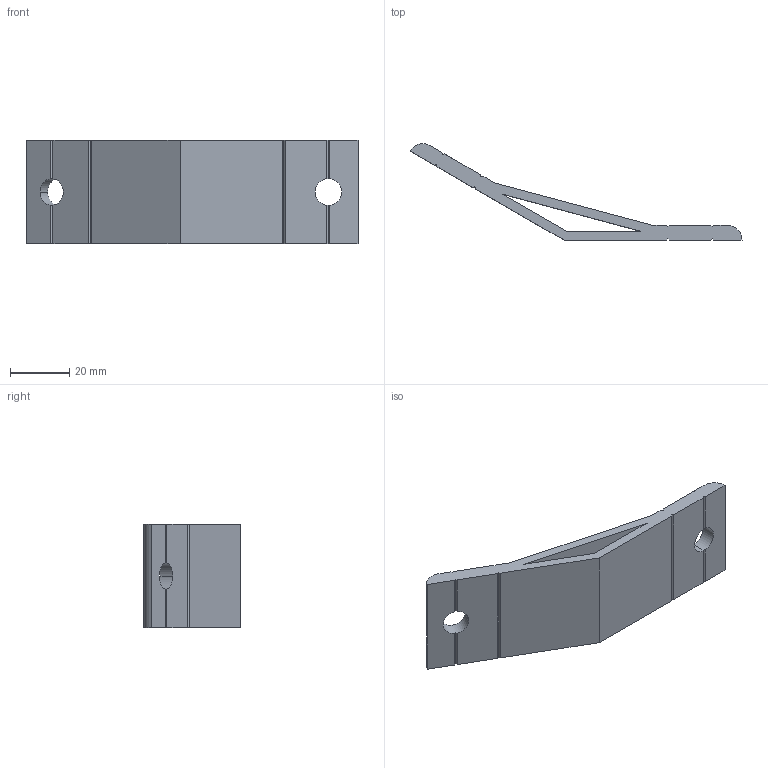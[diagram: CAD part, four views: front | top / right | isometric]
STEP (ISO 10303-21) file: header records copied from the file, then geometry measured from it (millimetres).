
FILE_DESCRIPTION (( 'STEP AP203' ), '1' );
FILE_NAME ('WA35150-8.STEP', '2024-02-19T06:19:40', ( '' ), ( '' ), 'SwSTEP 2.0', 'SolidWorks 2022', '' );
FILE_SCHEMA (( 'CONFIG_CONTROL_DESIGN' ));
Length unit declared in the file: millimetre
Products named in the file (1): WA35150-8
Bounding box: 111.96 x 32.5 x 35 mm (x, y, z)
Volume: 21376.8 mm3; surface area: 13262.9 mm2
Topology: 1 solids, 1 shells, 48 faces, 146 edges, 96 vertices
Faces by surface type: plane 42, cylinder 6
Entity records: 1703 total; most frequent: CARTESIAN_POINT 339, ORIENTED_EDGE 292, DIRECTION 244, EDGE_CURVE 146, LINE 114, VECTOR 114, VERTEX_POINT 96, AXIS2_PLACEMENT_3D 65
